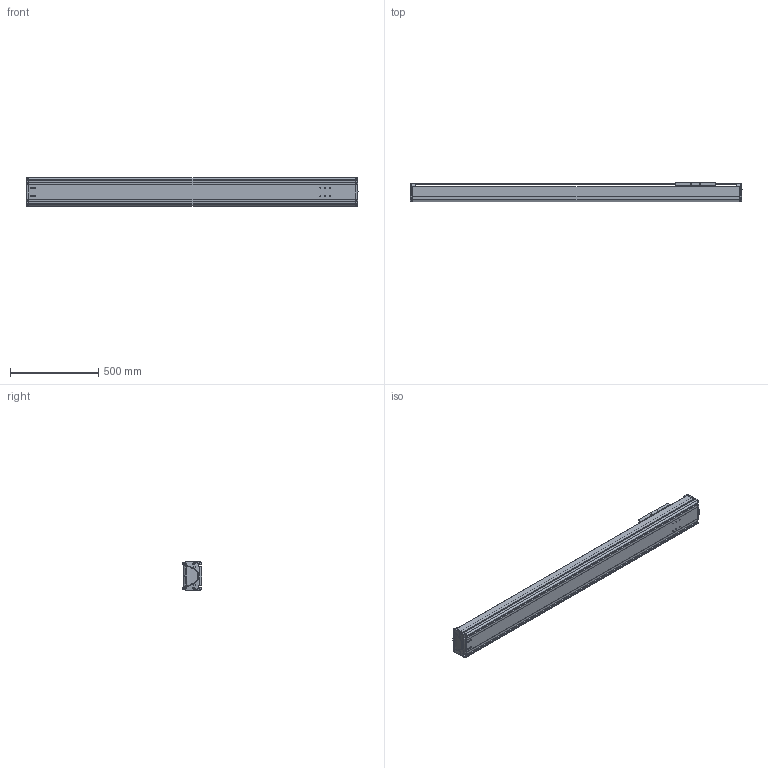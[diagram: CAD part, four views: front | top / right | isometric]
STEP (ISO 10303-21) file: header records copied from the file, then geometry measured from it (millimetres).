
FILE_DESCRIPTION((''),'2;1');
FILE_NAME('BE50G-ST-L_N-E5_IGS_PRT','2017-06-18T',(' '),(''),'PRO/ENGINEER BY PARAMETRIC TECHNOLOGY CORPORATION, 2015030','PRO/ENGINEER BY PARAMETRIC TECHNOLOGY CORPORATION, 2015030','');
FILE_SCHEMA(('CONFIG_CONTROL_DESIGN'));
Length unit declared in the file: millimetre
Products named in the file (1): BE50G-ST-L_N-E5_IGS_PRT
Bounding box: 1879.98 x 110 x 160 mm (x, y, z)
Volume: 7836485.7 mm3; surface area: 2836228 mm2
Topology: 3 solids, 116 shells, 1774 faces, 4778 edges, 3089 vertices
Faces by surface type: cylinder 834, plane 615, bspline 102, cone 96, torus 87, sphere 40
Entity records: 61775 total; most frequent: CARTESIAN_POINT 17878, ORIENTED_EDGE 9038, DIRECTION 8924, EDGE_CURVE 4742, AXIS2_PLACEMENT_3D 3370, VERTEX_POINT 3081, VECTOR 2184, LINE 2184
